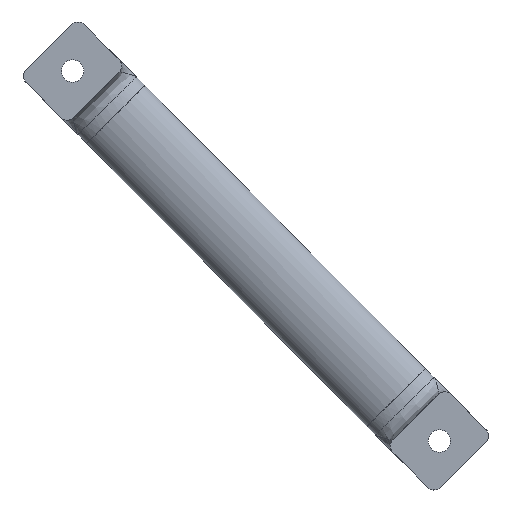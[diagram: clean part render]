
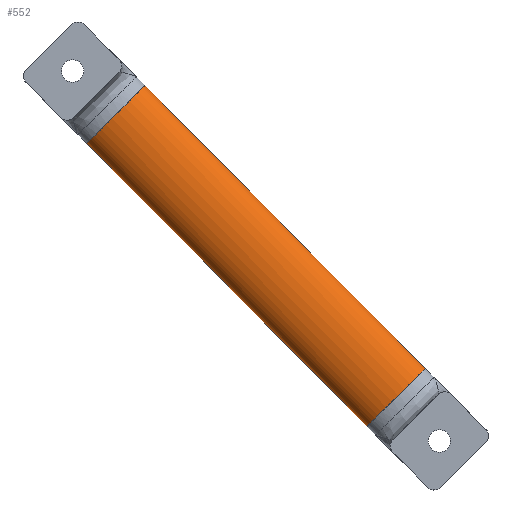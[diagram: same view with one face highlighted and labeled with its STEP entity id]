
A CAD part, front view. The second image highlights one B-rep face of the part: STEP entity #552.
In plain terms, the highlighted free-form (B-spline) face has degree [1, 2] with [2, 9] control points.
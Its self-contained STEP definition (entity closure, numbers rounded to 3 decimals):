
#32=(
BOUNDED_SURFACE()
B_SPLINE_SURFACE(1,2,((#2223,#2224,#2225,#2226,#2227,#2228,#2229,#2230,
#2231),(#2232,#2233,#2234,#2235,#2236,#2237,#2238,#2239,#2240)),
 .UNSPECIFIED.,.F.,.T.,.F.)
B_SPLINE_SURFACE_WITH_KNOTS((2,2),(3,2,2,2,3),(0.,9.701),
(-3.142,-1.571,0.,1.571,3.142),
 .UNSPECIFIED.)
GEOMETRIC_REPRESENTATION_ITEM()
RATIONAL_B_SPLINE_SURFACE(((1.,0.707,1.,0.707,1.,
0.707,1.,0.707,1.),(1.,0.707,1.,0.707,
1.,0.707,1.,0.707,1.)))
REPRESENTATION_ITEM('')
SURFACE()
);
#152=B_SPLINE_CURVE_WITH_KNOTS('',1,(#2244,#2245),.UNSPECIFIED.,.F.,.F.,
(2,2),(-9.701,0.),.UNSPECIFIED.);
#185=FACE_OUTER_BOUND('',#227,.T.);
#227=EDGE_LOOP('',(#497,#498,#499,#500));
#241=ELLIPSE('',#606,13.4,7.5);
#242=ELLIPSE('',#607,13.4,7.5);
#287=VERTEX_POINT('',#2241);
#288=VERTEX_POINT('',#2243);
#358=EDGE_CURVE('',#287,#287,#241,.T.);
#359=EDGE_CURVE('',#287,#288,#152,.T.);
#360=EDGE_CURVE('',#288,#288,#242,.T.);
#497=ORIENTED_EDGE('',*,*,#358,.F.);
#498=ORIENTED_EDGE('',*,*,#359,.T.);
#499=ORIENTED_EDGE('',*,*,#360,.T.);
#500=ORIENTED_EDGE('',*,*,#359,.F.);
#552=ADVANCED_FACE('',(#185),#32,.F.);
#606=AXIS2_PLACEMENT_3D('',#2242,#744,#745);
#607=AXIS2_PLACEMENT_3D('',#2246,#746,#747);
#744=DIRECTION('center_axis',(-1.,0.,0.));
#745=DIRECTION('ref_axis',(0.,0.,-1.));
#746=DIRECTION('center_axis',(-1.,0.,0.));
#747=DIRECTION('ref_axis',(0.,0.,-1.));
#2223=CARTESIAN_POINT('Ctrl Pts',(44.,37.5,13.4));
#2224=CARTESIAN_POINT('Ctrl Pts',(44.,45.,13.4));
#2225=CARTESIAN_POINT('Ctrl Pts',(44.,45.,0.));
#2226=CARTESIAN_POINT('Ctrl Pts',(44.,45.,-13.4));
#2227=CARTESIAN_POINT('Ctrl Pts',(44.,37.5,-13.4));
#2228=CARTESIAN_POINT('Ctrl Pts',(44.,30.,-13.4));
#2229=CARTESIAN_POINT('Ctrl Pts',(44.,30.,0.));
#2230=CARTESIAN_POINT('Ctrl Pts',(44.,30.,13.4));
#2231=CARTESIAN_POINT('Ctrl Pts',(44.,37.5,13.4));
#2232=CARTESIAN_POINT('Ctrl Pts',(-86.,37.5,13.4));
#2233=CARTESIAN_POINT('Ctrl Pts',(-86.,45.,13.4));
#2234=CARTESIAN_POINT('Ctrl Pts',(-86.,45.,0.));
#2235=CARTESIAN_POINT('Ctrl Pts',(-86.,45.,-13.4));
#2236=CARTESIAN_POINT('Ctrl Pts',(-86.,37.5,-13.4));
#2237=CARTESIAN_POINT('Ctrl Pts',(-86.,30.,-13.4));
#2238=CARTESIAN_POINT('Ctrl Pts',(-86.,30.,0.));
#2239=CARTESIAN_POINT('Ctrl Pts',(-86.,30.,13.4));
#2240=CARTESIAN_POINT('Ctrl Pts',(-86.,37.5,13.4));
#2241=CARTESIAN_POINT('',(-86.,37.5,13.4));
#2242=CARTESIAN_POINT('Origin',(-86.,37.5,0.));
#2243=CARTESIAN_POINT('',(44.,37.5,13.4));
#2244=CARTESIAN_POINT('Ctrl Pts',(-86.,37.5,13.4));
#2245=CARTESIAN_POINT('Ctrl Pts',(44.,37.5,13.4));
#2246=CARTESIAN_POINT('Origin',(44.,37.5,0.));
